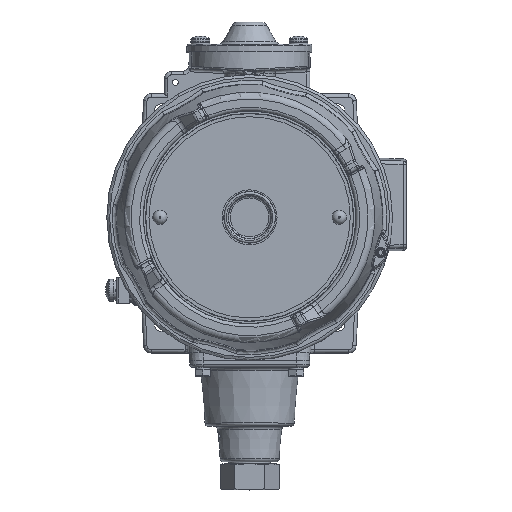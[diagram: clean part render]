
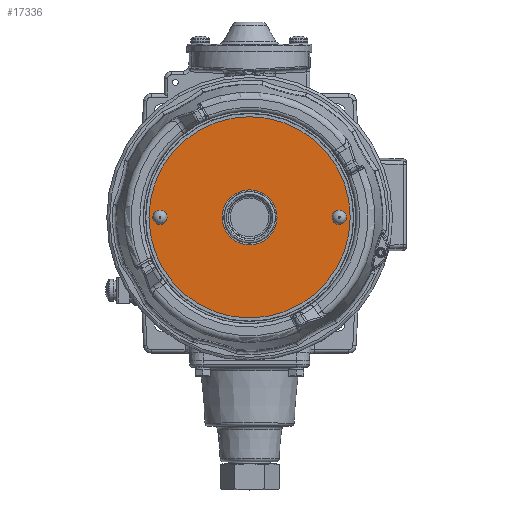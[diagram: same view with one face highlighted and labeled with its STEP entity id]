
A CAD part, top view. The second image highlights one B-rep face of the part: STEP entity #17336.
In plain terms, the highlighted planar face has unit normal (0, 0, 1).
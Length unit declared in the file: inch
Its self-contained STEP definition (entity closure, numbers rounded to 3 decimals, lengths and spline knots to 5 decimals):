
#2428 = AXIS2_PLACEMENT_3D ( 'NONE', #44764, #39963, #65980 ) ;
#2901 = VERTEX_POINT ( 'NONE', #28630 ) ;
#3477 = CARTESIAN_POINT ( 'NONE',  ( -0.00025, 0., 4.817 ) ) ;
#4584 = AXIS2_PLACEMENT_3D ( 'NONE', #20229, #62026, #56115 ) ;
#6867 = DIRECTION ( 'NONE',  ( 1., 0., 0. ) ) ;
#7948 = DIRECTION ( 'NONE',  ( 0., 0., 1. ) ) ;
#9182 = DIRECTION ( 'NONE',  ( 0., 0., 1. ) ) ;
#11756 = AXIS2_PLACEMENT_3D ( 'NONE', #50992, #9182, #66407 ) ;
#12623 = EDGE_CURVE ( 'NONE', #57069, #57069, #43947, .T. ) ;
#13109 = EDGE_CURVE ( 'NONE', #25925, #25925, #30922, .T. ) ;
#13676 = EDGE_LOOP ( 'NONE', ( #34199 ) ) ;
#17336 = ADVANCED_FACE ( 'NONE', ( #55791, #67078, #29779, #24614 ), #66756, .T. ) ;
#20171 = AXIS2_PLACEMENT_3D ( 'NONE', #3477, #7948, #24399 ) ;
#20229 = CARTESIAN_POINT ( 'NONE',  ( 1.531, 0., 4.817 ) ) ;
#24399 = DIRECTION ( 'NONE',  ( 1., 0., 0. ) ) ;
#24614 = FACE_BOUND ( 'NONE', #60464, .T. ) ;
#24909 = CARTESIAN_POINT ( 'NONE',  ( 1.609, 0., 4.817 ) ) ;
#25573 = CARTESIAN_POINT ( 'NONE',  ( -1.4535, 0., 4.817 ) ) ;
#25925 = VERTEX_POINT ( 'NONE', #25573 ) ;
#26296 = CIRCLE ( 'NONE', #43768, 1.71875 ) ;
#27032 = EDGE_CURVE ( 'NONE', #2901, #2901, #26296, .T. ) ;
#28144 = DIRECTION ( 'NONE',  ( 0., 0., 1. ) ) ;
#28630 = CARTESIAN_POINT ( 'NONE',  ( 1.7185, 0., 4.817 ) ) ;
#29504 = ORIENTED_EDGE ( 'NONE', *, *, #13109, .F. ) ;
#29779 = FACE_BOUND ( 'NONE', #43976, .T. ) ;
#30922 = CIRCLE ( 'NONE', #2428, 0.078 ) ;
#34199 = ORIENTED_EDGE ( 'NONE', *, *, #47244, .F. ) ;
#39154 = VERTEX_POINT ( 'NONE', #49097 ) ;
#39963 = DIRECTION ( 'NONE',  ( 0., 0., 1. ) ) ;
#40349 = ORIENTED_EDGE ( 'NONE', *, *, #27032, .T. ) ;
#42550 = CARTESIAN_POINT ( 'NONE',  ( -0.00025, 0., 4.817 ) ) ;
#43768 = AXIS2_PLACEMENT_3D ( 'NONE', #42550, #28144, #6867 ) ;
#43947 = CIRCLE ( 'NONE', #4584, 0.078 ) ;
#43976 = EDGE_LOOP ( 'NONE', ( #29504 ) ) ;
#44764 = CARTESIAN_POINT ( 'NONE',  ( -1.5315, 0., 4.817 ) ) ;
#47244 = EDGE_CURVE ( 'NONE', #39154, #39154, #57337, .T. ) ;
#49097 = CARTESIAN_POINT ( 'NONE',  ( 0.4685, 0., 4.817 ) ) ;
#50992 = CARTESIAN_POINT ( 'NONE',  ( -0.00025, 0., 4.817 ) ) ;
#52461 = ORIENTED_EDGE ( 'NONE', *, *, #12623, .F. ) ;
#55791 = FACE_BOUND ( 'NONE', #13676, .T. ) ;
#56115 = DIRECTION ( 'NONE',  ( 1., 0., 0. ) ) ;
#57069 = VERTEX_POINT ( 'NONE', #24909 ) ;
#57337 = CIRCLE ( 'NONE', #20171, 0.46875 ) ;
#60464 = EDGE_LOOP ( 'NONE', ( #52461 ) ) ;
#62026 = DIRECTION ( 'NONE',  ( 0., 0., 1. ) ) ;
#63007 = EDGE_LOOP ( 'NONE', ( #40349 ) ) ;
#65980 = DIRECTION ( 'NONE',  ( 1., 0., 0. ) ) ;
#66407 = DIRECTION ( 'NONE',  ( 1., 0., 0. ) ) ;
#66756 = PLANE ( 'NONE',  #11756 ) ;
#67078 = FACE_OUTER_BOUND ( 'NONE', #63007, .T. ) ;
